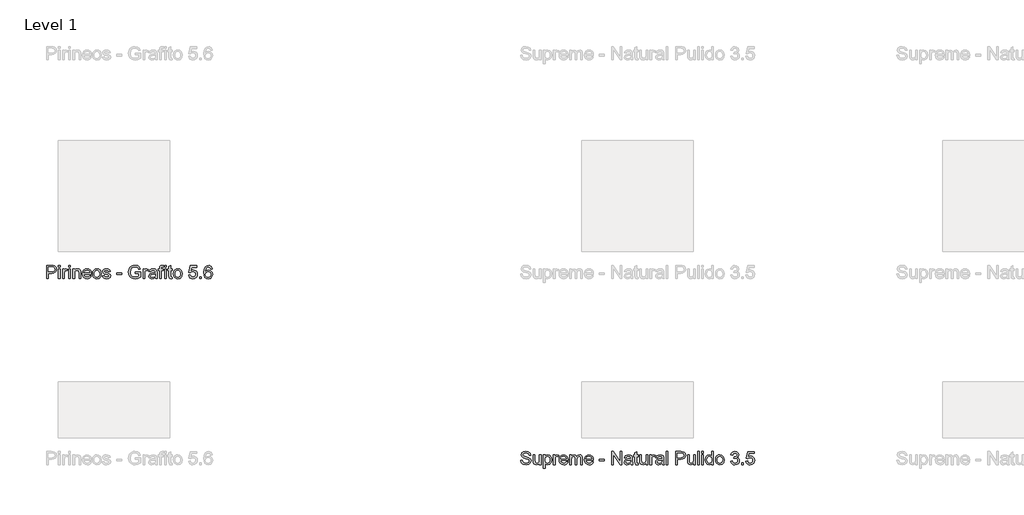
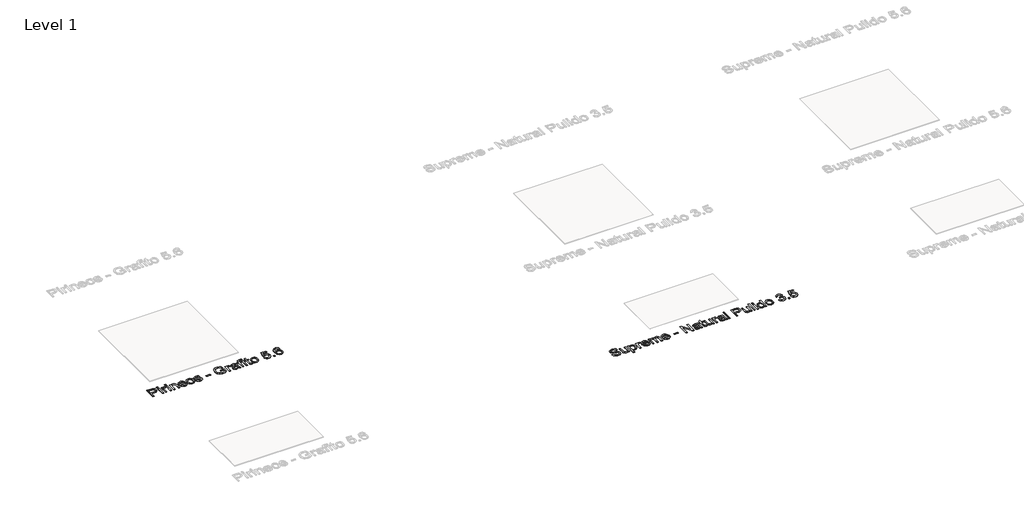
# One storey, part 35 of 80: 2 proxies.
"""IFC4 building model written with IfcOpenShell, lengths in millimetres."""

from ifc_helpers import new_model, si_unit, origin, origin_with_axes, place, context, project, spatial, polyline, outline, extrude, element, save

model = new_model("IFC4")

# Units and contexts
model_context = context("Model", 3, world=origin())
ifc_project = project(units=[si_unit("LENGTHUNIT", "METRE", prefix="MILLI")], contexts=[model_context])

# Site, building, storey
site = spatial("IfcSite", under=ifc_project)
building = spatial("IfcBuilding", under=site)
storey = spatial("IfcBuildingStorey", under=building, Name="Level 1", Elevation=0.0)

# Proxies
placement = place(None, origin())
element("IfcBuildingElementProxy", 1, Name="24\" Arial", ObjectType="24\" Arial", at=placement, inside=storey, context=model_context, shape_type="SweptSolid", body=[
    extrude(outline(polyline([(229.846969, -616.5984808), (229.846969, -498.4446346), (273.6354306, -498.4446346), (291.2892767, -499.5696346), (305.6402383, -505.0936731), (314.9431229, -516.51675), (318.4623536, -532.6273269), (316.0861517, -546.5528077), (308.9575459, -558.1561731), (295.6270171, -565.9879038), (274.6450459, -568.5984808), (244.6161998, -568.5984808), (244.6161998, -616.5984808), (229.846969, -616.5984808)]), holes=[polyline([(244.6161998, -553.82925), (275.5104306, -553.82925), (288.6065844, -552.4734808), (297.2604306, -548.4061731), (302.0849498, -541.8797308), (303.6931229, -533.1465577), (299.8998536, -520.9157884), (289.9335075, -514.2234808), (275.1642767, -513.2138654), (244.6161998, -513.2138654), (244.6161998, -553.82925)])]), origin_with_axes(), (0.0, 0.0, 1.0), 2.0),
    extrude(outline(polyline([(336.9238921, -616.5984808), (336.9238921, -529.82925), (351.6931229, -529.82925), (351.6931229, -616.5984808), (336.9238921, -616.5984808)])), origin_with_axes(), (0.0, 0.0, 1.0), 2.0),
    extrude(outline(polyline([(336.9238921, -513.2138654), (336.9238921, -498.4446346), (351.6931229, -498.4446346), (351.6931229, -513.2138654), (336.9238921, -513.2138654)])), origin_with_axes(), (0.0, 0.0, 1.0), 2.0),
    extrude(outline(polyline([(373.846969, -616.5984808), (373.846969, -529.82925), (386.7700459, -529.82925), (386.7700459, -542.6657884), (395.9431229, -530.8388654), (405.1738921, -527.9830961), (420.0008152, -532.5407884), (415.0681229, -545.7811731), (404.6835075, -542.7523269), (396.3325459, -545.6657884), (391.0104306, -553.7427115), (388.6161998, -570.9927115), (388.6161998, -616.5984808), (373.846969, -616.5984808)])), origin_with_axes(), (0.0, 0.0, 1.0), 2.0),
    extrude(outline(polyline([(429.2315844, -616.5984808), (429.2315844, -529.82925), (444.0008152, -529.82925), (444.0008152, -616.5984808), (429.2315844, -616.5984808)])), origin_with_axes(), (0.0, 0.0, 1.0), 2.0),
    extrude(outline(polyline([(429.2315844, -513.2138654), (429.2315844, -498.4446346), (444.0008152, -498.4446346), (444.0008152, -513.2138654), (429.2315844, -513.2138654)])), origin_with_axes(), (0.0, 0.0, 1.0), 2.0),
    extrude(outline(polyline([(466.1546613, -616.5984808), (466.1546613, -529.82925), (480.9238921, -529.82925), (480.9238921, -541.9446346), (492.2171613, -531.4734808), (507.6354306, -527.9830961), (521.5825459, -530.7955961), (531.1017767, -538.1802115), (535.5296613, -549.0407884), (536.3085075, -563.3196346), (536.3085075, -616.5984808), (521.5392767, -616.5984808), (521.5392767, -565.3100192), (519.8373536, -552.2427115), (513.8229306, -545.3340577), (503.6835075, -542.7523269), (487.659469, -548.5504038), (482.6077863, -556.9518461), (480.9238921, -570.5600192), (480.9238921, -616.5984808), (466.1546613, -616.5984808)])), origin_with_axes(), (0.0, 0.0, 1.0), 2.0),
    extrude(outline(polyline([(617.3661998, -590.7523269), (631.846969, -592.5984808), (626.6294209, -603.5095384), (618.3036998, -611.6657884), (607.0573056, -616.7499231), (593.0777383, -618.4446346), (575.7484113, -615.5203558), (562.4142767, -606.7475192), (553.9118729, -592.6958365), (551.0777383, -573.9350192), (553.940719, -554.5431923), (562.5296613, -540.0407884), (575.6835075, -530.9975192), (592.2411998, -527.9830961), (608.2832671, -530.9903077), (621.1017767, -540.0119423), (629.5068248, -554.4855), (632.3085075, -573.8484808), (632.221969, -577.82925), (565.846969, -577.82925), (568.4034594, -588.8845384), (574.3421613, -597.0119423), (582.9130748, -602.0095384), (593.3661998, -603.6754038), (607.846969, -600.5888654), (617.3661998, -590.7523269)]), holes=[polyline([(565.846969, -563.0600192), (617.5392767, -563.0600192), (611.6258152, -549.6754038), (603.0152383, -544.4830961), (592.1835075, -542.7523269), (573.9960075, -548.2763654), (568.2736517, -554.7342981), (565.846969, -563.0600192)])]), origin_with_axes(), (0.0, 0.0, 1.0), 2.0),
    extrude(outline(polyline([(643.3854306, -573.2138654), (646.5801421, -552.2931923), (656.1642767, -537.5888654), (668.0056229, -530.3845384), (682.1835075, -527.9830961), (697.6991325, -530.907375), (710.0921613, -539.6802115), (718.2159594, -553.6092981), (720.9238921, -572.0023269), (716.1354306, -598.2811731), (702.1883152, -613.1513654), (682.1835075, -618.4446346), (666.4803825, -615.5311731), (654.1017767, -606.7907884), (646.0645171, -592.5696346), (643.3854306, -573.2138654)]), holes=[polyline([(658.1546613, -573.1850192), (659.8637959, -586.5516058), (664.9911998, -596.0744423), (672.7075459, -601.7751634), (682.1835075, -603.6754038), (691.6161998, -601.7643461), (699.3181229, -596.0311731), (704.4455267, -586.3821346), (706.1546613, -572.7234808), (704.4347094, -559.7463173), (699.2748536, -550.3532884), (691.5621133, -544.6525673), (682.1835075, -542.7523269), (672.7075459, -544.6453558), (664.9911998, -550.3244423), (659.8637959, -559.8256442), (658.1546613, -573.1850192)])]), origin_with_axes(), (0.0, 0.0, 1.0), 2.0),
    extrude(outline(polyline([(732.0008152, -590.7523269), (746.7700459, -588.9061731), (753.6065844, -599.8677115), (769.2700459, -603.6754038), (784.3277383, -600.1850192), (789.2315844, -591.9927115), (784.2988921, -585.3580961), (769.096969, -581.1465577), (746.8565844, -573.9205961), (737.1498536, -565.4830961), (733.846969, -553.5696346), (736.5008152, -542.5648269), (743.7411998, -534.1561731), (753.1306229, -529.7859808), (765.8373536, -527.9830961), (783.8085075, -530.8821346), (795.2315844, -538.7282884), (800.3085075, -551.9830961), (785.5392767, -553.82925), (779.9863921, -545.6802115), (766.9911998, -542.7523269), (752.8565844, -545.5504038), (748.6161998, -552.0696346), (750.3758152, -556.3677115), (755.8854306, -559.6273269), (768.6065844, -562.7715577), (790.284469, -569.7234808), (800.3517767, -577.5984808), (804.0008152, -590.4350192), (799.7171613, -604.5696346), (787.3565844, -614.8244423), (769.0681229, -618.4446346), (754.1762959, -616.6994423), (743.3085075, -611.4638654), (736.0536998, -602.7955961), (732.0008152, -590.7523269)])), origin_with_axes(), (0.0, 0.0, 1.0), 2.0),
    extrude(outline(polyline([(859.3854306, -581.5215577), (859.3854306, -566.7523269), (905.5392767, -566.7523269), (905.5392767, -581.5215577), (859.3854306, -581.5215577)])), origin_with_axes(), (0.0, 0.0, 1.0), 2.0),
    extrude(outline(polyline([(1025.5392767, -570.4446346), (1025.5392767, -555.6754038), (1073.5392767, -555.6754038), (1073.5392767, -599.8388654), (1049.8421613, -613.7715577), (1024.7892767, -618.4446346), (1008.2207671, -616.5876634), (993.2460075, -611.01675), (980.8061036, -601.9266058), (971.8421613, -589.5119423), (966.4226902, -574.6201154), (964.6161998, -558.0984808), (966.4154786, -541.4578558), (971.8133152, -525.9782884), (980.5861517, -512.9939134), (992.5104306, -503.8388654), (1007.034469, -498.4085769), (1023.6065844, -496.5984808), (1046.7123536, -500.7955961), (1062.909469, -512.4782884), (1071.8373536, -532.0215577), (1058.221969, -535.8580961), (1051.4863921, -522.1994423), (1039.9767767, -514.3244423), (1023.3758152, -511.3677115), (1004.4671613, -514.5552115), (991.6017767, -522.9205961), (984.0008152, -534.3004038), (979.3854306, -557.4927115), (980.7736517, -571.6165096), (984.9383152, -583.2379038), (991.753219, -592.2739615), (1001.0921613, -598.64175), (1023.6065844, -603.6754038), (1043.8133152, -599.8821346), (1058.7700459, -591.7907884), (1058.7700459, -570.4446346), (1025.5392767, -570.4446346)])), origin_with_axes(), (0.0, 0.0, 1.0), 2.0),
    extrude(outline(polyline([(1095.6931229, -616.5984808), (1095.6931229, -529.82925), (1108.6161998, -529.82925), (1108.6161998, -542.6657884), (1117.7892767, -530.8388654), (1127.0200459, -527.9830961), (1141.846969, -532.5407884), (1136.9142767, -545.7811731), (1126.5296613, -542.7523269), (1118.1786998, -545.6657884), (1112.8565844, -553.7427115), (1110.4623536, -570.9927115), (1110.4623536, -616.5984808), (1095.6931229, -616.5984808)])), origin_with_axes(), (0.0, 0.0, 1.0), 2.0),
    extrude(outline(polyline([(1206.4623536, -605.5215577), (1192.1402383, -615.5311731), (1176.3181229, -618.4446346), (1163.9755748, -616.6922308), (1154.8710075, -611.4350192), (1149.2568248, -603.4518461), (1147.3854306, -593.5215577), (1150.2123536, -581.8388654), (1157.6402383, -573.3580961), (1167.9815844, -568.5119423), (1180.7604306, -566.2907884), (1206.3758152, -561.2138654), (1206.4623536, -557.9254038), (1202.3950459, -547.0215577), (1186.0681229, -542.7523269), (1171.1258152, -545.5936731), (1164.0008152, -555.6754038), (1149.2315844, -553.82925), (1155.6210075, -539.4061731), (1168.4863921, -530.95425), (1187.971969, -527.9830961), (1205.8710075, -530.6080961), (1215.9815844, -537.1994423), (1220.5104306, -547.2234808), (1221.2315844, -560.1465577), (1221.2315844, -578.5215577), (1221.9815844, -604.1802115), (1224.9238921, -616.5984808), (1210.1546613, -616.5984808), (1206.4623536, -605.5215577)]), holes=[polyline([(1206.4623536, -575.9830961), (1182.6354306, -580.5119423), (1169.9286998, -582.9061731), (1164.1738921, -586.8004038), (1162.1546613, -592.4830961), (1166.5536998, -600.4734808), (1179.4623536, -603.6754038), (1194.4046613, -600.14175), (1204.0392767, -591.5888654), (1206.3758152, -580.1657884), (1206.4623536, -575.9830961)])]), origin_with_axes(), (0.0, 0.0, 1.0), 2.0),
    extrude(outline(polyline([(1245.2315844, -616.5984808), (1245.2315844, -544.5984808), (1232.3085075, -544.5984808), (1232.3085075, -529.82925), (1245.2315844, -529.82925), (1245.2315844, -521.0888654), (1246.7892767, -508.7715577), (1254.346969, -499.9734808), (1269.2315844, -496.5984808), (1282.7027383, -498.2138654), (1280.5392767, -512.0600192), (1272.0296613, -511.3677115), (1262.7267767, -513.8196346), (1260.0008152, -522.9638654), (1260.0008152, -529.82925), (1276.6161998, -529.82925), (1276.6161998, -544.5984808), (1260.0008152, -544.5984808), (1260.0008152, -616.5984808), (1245.2315844, -616.5984808)])), origin_with_axes(), (0.0, 0.0, 1.0), 2.0),
    extrude(outline(polyline([(1289.5392767, -616.5984808), (1289.5392767, -529.82925), (1304.3085075, -529.82925), (1304.3085075, -616.5984808), (1289.5392767, -616.5984808)])), origin_with_axes(), (0.0, 0.0, 1.0), 2.0),
    extrude(outline(polyline([(1289.5392767, -513.2138654), (1289.5392767, -498.4446346), (1304.3085075, -498.4446346), (1304.3085075, -513.2138654), (1289.5392767, -513.2138654)])), origin_with_axes(), (0.0, 0.0, 1.0), 2.0),
    extrude(outline(polyline([(1357.846969, -604.2811731), (1359.6931229, -617.0311731), (1348.6450459, -618.4446346), (1336.2700459, -615.9927115), (1330.096969, -609.5600192), (1328.3085075, -592.8004038), (1328.3085075, -544.5984808), (1317.2315844, -544.5984808), (1317.2315844, -529.82925), (1328.3085075, -529.82925), (1328.3085075, -508.7427115), (1343.0777383, -500.0600192), (1343.0777383, -529.82925), (1357.846969, -529.82925), (1357.846969, -544.5984808), (1343.0777383, -544.5984808), (1343.0777383, -592.3677115), (1343.8565844, -599.9830961), (1346.3806229, -602.6802115), (1351.4142767, -603.6754038), (1357.846969, -604.2811731)])), origin_with_axes(), (0.0, 0.0, 1.0), 2.0),
    extrude(outline(polyline([(1368.9238921, -573.2138654), (1372.1186036, -552.2931923), (1381.7027383, -537.5888654), (1393.5440844, -530.3845384), (1407.721969, -527.9830961), (1423.237594, -530.907375), (1435.6306229, -539.6802115), (1443.7544209, -553.6092981), (1446.4623536, -572.0023269), (1441.6738921, -598.2811731), (1427.7267767, -613.1513654), (1407.721969, -618.4446346), (1392.018844, -615.5311731), (1379.6402383, -606.7907884), (1371.6029786, -592.5696346), (1368.9238921, -573.2138654)]), holes=[polyline([(1383.6931229, -573.1850192), (1385.4022575, -586.5516058), (1390.5296613, -596.0744423), (1398.2460075, -601.7751634), (1407.721969, -603.6754038), (1417.1546613, -601.7643461), (1424.8565844, -596.0311731), (1429.9839883, -586.3821346), (1431.6931229, -572.7234808), (1429.9731709, -559.7463173), (1424.8133152, -550.3532884), (1417.1005748, -544.6525673), (1407.721969, -542.7523269), (1398.2460075, -544.6453558), (1390.5296613, -550.3244423), (1385.4022575, -559.8256442), (1383.6931229, -573.1850192)])]), origin_with_axes(), (0.0, 0.0, 1.0), 2.0),
    extrude(outline(polyline([(1505.5392767, -585.2138654), (1520.3085075, -583.3677115), (1527.7508152, -598.5840577), (1543.1835075, -603.6754038), (1553.7700459, -601.9049711), (1561.7027383, -596.5936731), (1566.6570652, -588.3544904), (1568.3085075, -577.8004038), (1566.7616325, -567.8629038), (1562.1210075, -560.2619423), (1554.3505748, -555.4374231), (1543.4142767, -553.82925), (1530.4479306, -556.3965577), (1522.1546613, -563.0600192), (1507.3854306, -561.2138654), (1520.3085075, -500.2907884), (1577.5392767, -500.2907884), (1577.5392767, -515.0600192), (1532.2508152, -515.0600192), (1525.9335075, -547.5984808), (1536.4839883, -541.1946346), (1547.5392767, -539.0600192), (1561.3385556, -541.7066538), (1572.7940844, -549.6465577), (1580.5068248, -561.7475192), (1583.0777383, -576.8773269), (1580.7628344, -591.6465577), (1573.8181229, -604.2811731), (1560.5200459, -614.9037692), (1543.1258152, -618.4446346), (1528.6198056, -616.1693942), (1517.0633152, -609.3436731), (1509.1414402, -598.7607404), (1505.5392767, -585.2138654)])), origin_with_axes(), (0.0, 0.0, 1.0), 2.0),
    extrude(outline(polyline([(1603.3854306, -616.5984808), (1603.3854306, -601.82925), (1618.1546613, -601.82925), (1618.1546613, -616.5984808), (1603.3854306, -616.5984808)])), origin_with_axes(), (0.0, 0.0, 1.0), 2.0),
    extrude(outline(polyline([(1717.846969, -529.82925), (1703.0777383, -531.6754038), (1697.4815844, -519.3580961), (1690.7820652, -514.7499231), (1682.6835075, -513.2138654), (1669.3565844, -516.7907884), (1659.2748536, -530.2186731), (1655.0777383, -556.5407884), (1668.1017767, -544.7571346), (1684.2411998, -540.9061731), (1697.8854306, -543.5383846), (1709.3373536, -551.4350192), (1717.1041806, -563.4999231), (1719.6931229, -578.6369423), (1714.8181229, -599.01675), (1701.4046613, -613.4398269), (1682.0488921, -618.4446346), (1665.2928825, -615.1273269), (1651.9479306, -605.1754038), (1643.2183633, -587.6080961), (1640.3085075, -561.4446346), (1643.5392767, -532.0287692), (1653.2315844, -511.9157884), (1666.4647575, -501.8124231), (1683.6065844, -498.4446346), (1696.565719, -500.5287692), (1706.9431229, -506.7811731), (1714.2123536, -516.7114615), (1717.846969, -529.82925)]), holes=[polyline([(1655.0777383, -578.4061731), (1658.4960075, -591.1994423), (1667.5825459, -600.4879038), (1680.8950459, -603.6754038), (1690.6414402, -602.0239615), (1698.3036998, -597.0696346), (1703.268844, -589.2811731), (1704.9238921, -579.1273269), (1703.2904786, -569.3809327), (1698.3902383, -561.9494423), (1690.5981709, -557.2439134), (1680.2892767, -555.6754038), (1670.5573056, -557.2439134), (1662.4190844, -561.9494423), (1656.9130748, -569.2006442), (1655.0777383, -578.4061731)])]), origin_with_axes(), (0.0, 0.0, 1.0), 2.0),
])
element("IfcBuildingElementProxy", 2, Name="24\" Arial", ObjectType="24\" Arial", at=placement, inside=storey, context=model_context, shape_type="SweptSolid", body=[
    extrude(outline(polyline([(4485.846969, -2247.1898581), (4500.6161998, -2247.1898581), (4505.3758152, -2261.973512), (4517.0008152, -2271.3196658), (4534.7123536, -2274.8821658), (4550.1450459, -2272.1850504), (4560.1113921, -2264.7715889), (4563.3854306, -2254.862935), (4560.9335075, -2245.6465889), (4550.8950459, -2238.9398581), (4529.3902383, -2233.300435), (4506.2411998, -2226.0167812), (4493.6786998, -2215.0263966), (4489.5392767, -2200.3437043), (4494.659469, -2183.6273581), (4509.6161998, -2171.8292812), (4531.5104306, -2167.8052427), (4554.8758152, -2172.0167812), (4570.4527383, -2184.3917812), (4576.3085075, -2202.8821658), (4561.5392767, -2202.8821658), (4558.8277383, -2194.0696658), (4553.1738921, -2187.7090889), (4544.3397575, -2183.8581273), (4532.0873536, -2182.5744735), (4519.5464883, -2183.8437043), (4510.9431229, -2187.6513966), (4505.9671613, -2193.254762), (4504.3085075, -2199.911012), (4509.0104306, -2210.1513966), (4533.1258152, -2218.4013966), (4559.2604306, -2225.8148581), (4573.5536998, -2237.786012), (4578.1546613, -2254.487935), (4572.8613921, -2272.1562043), (4557.6306229, -2285.050435), (4535.2892767, -2289.6513966), (4508.909469, -2284.6898581), (4499.4226902, -2278.473512), (4492.221969, -2269.7475504), (4485.846969, -2247.1898581)])), origin_with_axes(), (0.0, 0.0, 1.0), 2.0),
    extrude(outline(polyline([(4653.846969, -2287.8052427), (4653.846969, -2272.8917812), (4642.2796613, -2285.4614927), (4627.1931229, -2289.6513966), (4613.3036998, -2286.7090889), (4603.7267767, -2279.3244735), (4599.3277383, -2268.4494735), (4598.4623536, -2254.7187043), (4598.4623536, -2201.036012), (4613.2315844, -2201.036012), (4613.2315844, -2247.7667812), (4614.1258152, -2262.8244735), (4619.9671613, -2271.6658197), (4630.971969, -2274.8821658), (4643.3036998, -2271.5937043), (4651.4527383, -2262.6369735), (4653.846969, -2246.1802427), (4653.846969, -2201.036012), (4668.6161998, -2201.036012), (4668.6161998, -2287.8052427), (4653.846969, -2287.8052427)])), origin_with_axes(), (0.0, 0.0, 1.0), 2.0),
    extrude(outline(polyline([(4688.9238921, -2321.036012), (4688.9238921, -2201.036012), (4703.6931229, -2201.036012), (4703.6931229, -2215.5167812), (4713.9046613, -2203.2715889), (4727.6931229, -2199.1898581), (4746.4142767, -2204.9013966), (4758.6450459, -2220.9975504), (4762.7700459, -2243.7571658), (4758.1113921, -2267.6850504), (4752.3998536, -2277.0744735), (4744.5825459, -2283.9831273), (4725.9046613, -2289.6513966), (4713.0536998, -2285.8581273), (4703.6931229, -2276.2667812), (4703.6931229, -2321.036012), (4688.9238921, -2321.036012)]), holes=[polyline([(4703.6931229, -2245.112935), (4705.2904786, -2258.3533197), (4710.0825459, -2267.612935), (4717.1534594, -2273.0648581), (4725.5873536, -2274.8821658), (4734.1582671, -2272.9999543), (4741.409469, -2267.3533197), (4746.3529786, -2257.754762), (4748.0008152, -2244.0167812), (4746.3926421, -2230.848512), (4741.5681229, -2221.4590889), (4734.5080267, -2215.8340889), (4726.1931229, -2213.9590889), (4717.8457671, -2215.9530793), (4710.5152383, -2221.9350504), (4705.3986517, -2231.7175023), (4703.6931229, -2245.112935)])]), origin_with_axes(), (0.0, 0.0, 1.0), 2.0),
    extrude(outline(polyline([(4779.3854306, -2287.8052427), (4779.3854306, -2201.036012), (4792.3085075, -2201.036012), (4792.3085075, -2213.8725504), (4801.4815844, -2202.0456273), (4810.7123536, -2199.1898581), (4825.5392767, -2203.7475504), (4820.6065844, -2216.987935), (4810.221969, -2213.9590889), (4801.8710075, -2216.8725504), (4796.5488921, -2224.9494735), (4794.1546613, -2242.1994735), (4794.1546613, -2287.8052427), (4779.3854306, -2287.8052427)])), origin_with_axes(), (0.0, 0.0, 1.0), 2.0),
    extrude(outline(polyline([(4895.5200459, -2261.9590889), (4910.0008152, -2263.8052427), (4904.7832671, -2274.7163004), (4896.4575459, -2282.8725504), (4885.2111517, -2287.956685), (4871.2315844, -2289.6513966), (4853.9022575, -2286.7271177), (4840.5681229, -2277.9542812), (4832.065719, -2263.9025985), (4829.2315844, -2245.1417812), (4832.0945652, -2225.7499543), (4840.6835075, -2211.2475504), (4853.8373536, -2202.2042812), (4870.3950459, -2199.1898581), (4886.4371133, -2202.1970697), (4899.2556229, -2211.2187043), (4907.6606709, -2225.692262), (4910.4623536, -2245.0552427), (4910.3758152, -2249.036012), (4844.0008152, -2249.036012), (4846.5573056, -2260.0913004), (4852.4960075, -2268.2187043), (4861.0669209, -2273.2163004), (4871.5200459, -2274.8821658), (4886.0008152, -2271.7956273), (4895.5200459, -2261.9590889)]), holes=[polyline([(4844.0008152, -2234.2667812), (4895.6931229, -2234.2667812), (4889.7796613, -2220.8821658), (4881.1690844, -2215.6898581), (4870.3373536, -2213.9590889), (4852.1498536, -2219.4831273), (4846.4274979, -2225.94106), (4844.0008152, -2234.2667812)])]), origin_with_axes(), (0.0, 0.0, 1.0), 2.0),
    extrude(outline(polyline([(4925.2315844, -2287.8052427), (4925.2315844, -2201.036012), (4940.0008152, -2201.036012), (4940.0008152, -2215.3148581), (4950.1546613, -2203.6177427), (4964.6065844, -2199.1898581), (4979.4046613, -2203.7042812), (4987.5392767, -2216.3533197), (4999.0633152, -2203.4807235), (5013.6161998, -2199.1898581), (5024.7183633, -2200.9747139), (5032.9286998, -2206.3292812), (5038.0020171, -2215.3977908), (5039.6931229, -2228.3244735), (5039.6931229, -2287.8052427), (5024.9238921, -2287.8052427), (5024.9238921, -2234.6706273), (5023.5536998, -2222.3388966), (5018.5921613, -2216.2667812), (5010.1546613, -2213.9590889), (5002.1534594, -2215.4374543), (4995.6306229, -2219.8725504), (4991.2928825, -2227.567262), (4989.846969, -2238.8244735), (4989.846969, -2287.8052427), (4975.0777383, -2287.8052427), (4975.0777383, -2233.0263966), (4971.659469, -2218.7187043), (4960.4527383, -2213.9590889), (4949.5200459, -2217.1321658), (4942.2508152, -2226.4206273), (4940.0008152, -2244.0456273), (4940.0008152, -2287.8052427), (4925.2315844, -2287.8052427)])), origin_with_axes(), (0.0, 0.0, 1.0), 2.0),
    extrude(outline(polyline([(5122.596969, -2261.9590889), (5137.0777383, -2263.8052427), (5131.8601902, -2274.7163004), (5123.534469, -2282.8725504), (5112.2880748, -2287.956685), (5098.3085075, -2289.6513966), (5080.9791806, -2286.7271177), (5067.6450459, -2277.9542812), (5059.1426421, -2263.9025985), (5056.3085075, -2245.1417812), (5059.1714883, -2225.7499543), (5067.7604306, -2211.2475504), (5080.9142767, -2202.2042812), (5097.471969, -2199.1898581), (5113.5140363, -2202.1970697), (5126.3325459, -2211.2187043), (5134.737594, -2225.692262), (5137.5392767, -2245.0552427), (5137.4527383, -2249.036012), (5071.0777383, -2249.036012), (5073.6342286, -2260.0913004), (5079.5729306, -2268.2187043), (5088.143844, -2273.2163004), (5098.596969, -2274.8821658), (5113.0777383, -2271.7956273), (5122.596969, -2261.9590889)]), holes=[polyline([(5071.0777383, -2234.2667812), (5122.7700459, -2234.2667812), (5116.8565844, -2220.8821658), (5108.2460075, -2215.6898581), (5097.4142767, -2213.9590889), (5079.2267767, -2219.4831273), (5073.5044209, -2225.94106), (5071.0777383, -2234.2667812)])]), origin_with_axes(), (0.0, 0.0, 1.0), 2.0),
    extrude(outline(polyline([(5191.0777383, -2252.7283197), (5191.0777383, -2237.9590889), (5237.2315844, -2237.9590889), (5237.2315844, -2252.7283197), (5191.0777383, -2252.7283197)])), origin_with_axes(), (0.0, 0.0, 1.0), 2.0),
    extrude(outline(polyline([(5301.846969, -2287.8052427), (5301.846969, -2169.6513966), (5317.6546613, -2169.6513966), (5379.3854306, -2263.2571658), (5379.3854306, -2169.6513966), (5394.1546613, -2169.6513966), (5394.1546613, -2287.8052427), (5378.346969, -2287.8052427), (5316.6161998, -2194.1706273), (5316.6161998, -2287.8052427), (5301.846969, -2287.8052427)])), origin_with_axes(), (0.0, 0.0, 1.0), 2.0),
    extrude(outline(polyline([(5473.5392767, -2276.7283197), (5459.2171613, -2286.737935), (5443.3950459, -2289.6513966), (5431.0524979, -2287.8989927), (5421.9479306, -2282.6417812), (5416.3337479, -2274.6586081), (5414.4623536, -2264.7283197), (5417.2892767, -2253.0456273), (5424.7171613, -2244.5648581), (5435.0585075, -2239.7187043), (5447.8373536, -2237.4975504), (5473.4527383, -2232.4206273), (5473.5392767, -2229.1321658), (5469.471969, -2218.2283197), (5453.1450459, -2213.9590889), (5438.2027383, -2216.800435), (5431.0777383, -2226.8821658), (5416.3085075, -2225.036012), (5422.6979306, -2210.612935), (5435.5633152, -2202.161012), (5455.0488921, -2199.1898581), (5472.9479306, -2201.8148581), (5483.0585075, -2208.4062043), (5487.5873536, -2218.4302427), (5488.3085075, -2231.3533197), (5488.3085075, -2249.7283197), (5489.0585075, -2275.3869735), (5492.0008152, -2287.8052427), (5477.2315844, -2287.8052427), (5473.5392767, -2276.7283197)]), holes=[polyline([(5473.5392767, -2247.1898581), (5449.7123536, -2251.7187043), (5437.0056229, -2254.112935), (5431.2508152, -2258.0071658), (5429.2315844, -2263.6898581), (5433.6306229, -2271.6802427), (5446.5392767, -2274.8821658), (5461.4815844, -2271.348512), (5471.1161998, -2262.7956273), (5473.4527383, -2251.3725504), (5473.5392767, -2247.1898581)])]), origin_with_axes(), (0.0, 0.0, 1.0), 2.0),
    extrude(outline(polyline([(5540.0008152, -2275.487935), (5541.846969, -2288.237935), (5530.7988921, -2289.6513966), (5518.4238921, -2287.1994735), (5512.2508152, -2280.7667812), (5510.4623536, -2264.0071658), (5510.4623536, -2215.8052427), (5499.3854306, -2215.8052427), (5499.3854306, -2201.036012), (5510.4623536, -2201.036012), (5510.4623536, -2179.9494735), (5525.2315844, -2171.2667812), (5525.2315844, -2201.036012), (5540.0008152, -2201.036012), (5540.0008152, -2215.8052427), (5525.2315844, -2215.8052427), (5525.2315844, -2263.5744735), (5526.0104306, -2271.1898581), (5528.534469, -2273.8869735), (5533.5681229, -2274.8821658), (5540.0008152, -2275.487935)])), origin_with_axes(), (0.0, 0.0, 1.0), 2.0),
    extrude(outline(polyline([(5610.1546613, -2287.8052427), (5610.1546613, -2272.8917812), (5598.5873536, -2285.4614927), (5583.5008152, -2289.6513966), (5569.6113921, -2286.7090889), (5560.034469, -2279.3244735), (5555.6354306, -2268.4494735), (5554.7700459, -2254.7187043), (5554.7700459, -2201.036012), (5569.5392767, -2201.036012), (5569.5392767, -2247.7667812), (5570.4335075, -2262.8244735), (5576.2748536, -2271.6658197), (5587.2796613, -2274.8821658), (5599.6113921, -2271.5937043), (5607.7604306, -2262.6369735), (5610.1546613, -2246.1802427), (5610.1546613, -2201.036012), (5624.9238921, -2201.036012), (5624.9238921, -2287.8052427), (5610.1546613, -2287.8052427)])), origin_with_axes(), (0.0, 0.0, 1.0), 2.0),
    extrude(outline(polyline([(5645.2315844, -2287.8052427), (5645.2315844, -2201.036012), (5658.1546613, -2201.036012), (5658.1546613, -2213.8725504), (5667.3277383, -2202.0456273), (5676.5585075, -2199.1898581), (5691.3854306, -2203.7475504), (5686.4527383, -2216.987935), (5676.0681229, -2213.9590889), (5667.7171613, -2216.8725504), (5662.3950459, -2224.9494735), (5660.0008152, -2242.1994735), (5660.0008152, -2287.8052427), (5645.2315844, -2287.8052427)])), origin_with_axes(), (0.0, 0.0, 1.0), 2.0),
    extrude(outline(polyline([(5756.0008152, -2276.7283197), (5741.6786998, -2286.737935), (5725.8565844, -2289.6513966), (5713.5140363, -2287.8989927), (5704.409469, -2282.6417812), (5698.7952863, -2274.6586081), (5696.9238921, -2264.7283197), (5699.7508152, -2253.0456273), (5707.1786998, -2244.5648581), (5717.5200459, -2239.7187043), (5730.2988921, -2237.4975504), (5755.9142767, -2232.4206273), (5756.0008152, -2229.1321658), (5751.9335075, -2218.2283197), (5735.6065844, -2213.9590889), (5720.6642767, -2216.800435), (5713.5392767, -2226.8821658), (5698.7700459, -2225.036012), (5705.159469, -2210.612935), (5718.0248536, -2202.161012), (5737.5104306, -2199.1898581), (5755.409469, -2201.8148581), (5765.5200459, -2208.4062043), (5770.0488921, -2218.4302427), (5770.7700459, -2231.3533197), (5770.7700459, -2249.7283197), (5771.5200459, -2275.3869735), (5774.4623536, -2287.8052427), (5759.6931229, -2287.8052427), (5756.0008152, -2276.7283197)]), holes=[polyline([(5756.0008152, -2247.1898581), (5732.1738921, -2251.7187043), (5719.4671613, -2254.112935), (5713.7123536, -2258.0071658), (5711.6931229, -2263.6898581), (5716.0921613, -2271.6802427), (5729.0008152, -2274.8821658), (5743.9431229, -2271.348512), (5753.5777383, -2262.7956273), (5755.9142767, -2251.3725504), (5756.0008152, -2247.1898581)])]), origin_with_axes(), (0.0, 0.0, 1.0), 2.0),
    extrude(outline(polyline([(5791.0777383, -2287.8052427), (5791.0777383, -2169.6513966), (5805.846969, -2169.6513966), (5805.846969, -2287.8052427), (5791.0777383, -2287.8052427)])), origin_with_axes(), (0.0, 0.0, 1.0), 2.0),
    extrude(outline(polyline([(5876.0008152, -2287.8052427), (5876.0008152, -2169.6513966), (5919.7892767, -2169.6513966), (5937.4431229, -2170.7763966), (5951.7940844, -2176.300435), (5961.096969, -2187.723512), (5964.6161998, -2203.8340889), (5962.2399979, -2217.7595697), (5955.1113921, -2229.362935), (5941.7808633, -2237.1946658), (5920.7988921, -2239.8052427), (5890.7700459, -2239.8052427), (5890.7700459, -2287.8052427), (5876.0008152, -2287.8052427)]), holes=[polyline([(5890.7700459, -2225.036012), (5921.6642767, -2225.036012), (5934.7604306, -2223.6802427), (5943.4142767, -2219.612935), (5948.2387959, -2213.0864927), (5949.846969, -2204.3533197), (5946.0536998, -2192.1225504), (5936.0873536, -2185.4302427), (5921.3181229, -2184.4206273), (5890.7700459, -2184.4206273), (5890.7700459, -2225.036012)])]), origin_with_axes(), (0.0, 0.0, 1.0), 2.0),
    extrude(outline(polyline([(6038.4623536, -2287.8052427), (6038.4623536, -2272.8917812), (6026.8950459, -2285.4614927), (6011.8085075, -2289.6513966), (5997.9190844, -2286.7090889), (5988.3421613, -2279.3244735), (5983.9431229, -2268.4494735), (5983.0777383, -2254.7187043), (5983.0777383, -2201.036012), (5997.846969, -2201.036012), (5997.846969, -2247.7667812), (5998.7411998, -2262.8244735), (6004.5825459, -2271.6658197), (6015.5873536, -2274.8821658), (6027.9190844, -2271.5937043), (6036.0681229, -2262.6369735), (6038.4623536, -2246.1802427), (6038.4623536, -2201.036012), (6053.2315844, -2201.036012), (6053.2315844, -2287.8052427), (6038.4623536, -2287.8052427)])), origin_with_axes(), (0.0, 0.0, 1.0), 2.0),
    extrude(outline(polyline([(6073.5392767, -2287.8052427), (6073.5392767, -2169.6513966), (6088.3085075, -2169.6513966), (6088.3085075, -2287.8052427), (6073.5392767, -2287.8052427)])), origin_with_axes(), (0.0, 0.0, 1.0), 2.0),
    extrude(outline(polyline([(6110.4623536, -2184.4206273), (6110.4623536, -2169.6513966), (6125.2315844, -2169.6513966), (6125.2315844, -2184.4206273), (6110.4623536, -2184.4206273)])), origin_with_axes(), (0.0, 0.0, 1.0), 2.0),
    extrude(outline(polyline([(6110.4623536, -2287.8052427), (6110.4623536, -2201.036012), (6125.2315844, -2201.036012), (6125.2315844, -2287.8052427), (6110.4623536, -2287.8052427)])), origin_with_axes(), (0.0, 0.0, 1.0), 2.0),
    extrude(outline(polyline([(6200.9238921, -2287.8052427), (6200.9238921, -2273.8725504), (6191.1522575, -2285.706685), (6177.6450459, -2289.6513966), (6159.3565844, -2283.9398581), (6146.4335075, -2268.0023581), (6141.846969, -2244.5071658), (6146.0729306, -2220.9975504), (6151.3517767, -2211.6730312), (6158.7363921, -2204.8148581), (6177.5873536, -2199.1898581), (6191.2027383, -2203.2138966), (6200.9238921, -2213.6706273), (6200.9238921, -2169.6513966), (6215.6931229, -2169.6513966), (6215.6931229, -2287.8052427), (6200.9238921, -2287.8052427)]), holes=[polyline([(6156.6161998, -2244.4494735), (6158.2820652, -2257.8088485), (6163.2796613, -2267.3100504), (6170.5416806, -2272.989137), (6179.0008152, -2274.8821658), (6187.456344, -2273.0756754), (6194.534469, -2267.6562043), (6199.3265363, -2258.5227908), (6200.9238921, -2245.5744735), (6199.2976902, -2231.4182235), (6194.4190844, -2221.6033197), (6187.1606709, -2215.8701466), (6178.3950459, -2213.9590889), (6169.8493729, -2215.7944254), (6162.846969, -2221.300435), (6158.1738921, -2230.7583677), (6156.6161998, -2244.4494735)])]), origin_with_axes(), (0.0, 0.0, 1.0), 2.0),
    extrude(outline(polyline([(6234.1546613, -2244.4206273), (6237.3493729, -2223.4999543), (6246.9335075, -2208.7956273), (6258.7748536, -2201.5913004), (6272.9527383, -2199.1898581), (6288.4683633, -2202.114137), (6300.8613921, -2210.8869735), (6308.9851902, -2224.81606), (6311.6931229, -2243.2090889), (6306.9046613, -2269.487935), (6292.9575459, -2284.3581273), (6272.9527383, -2289.6513966), (6257.2496133, -2286.737935), (6244.8710075, -2277.9975504), (6236.8337479, -2263.7763966), (6234.1546613, -2244.4206273)]), holes=[polyline([(6248.9238921, -2244.3917812), (6250.6330267, -2257.7583677), (6255.7604306, -2267.2812043), (6263.4767767, -2272.9819254), (6272.9527383, -2274.8821658), (6282.3854306, -2272.9711081), (6290.0873536, -2267.237935), (6295.2147575, -2257.5888966), (6296.9238921, -2243.9302427), (6295.2039402, -2230.9530793), (6290.0440844, -2221.5600504), (6282.331344, -2215.8593293), (6272.9527383, -2213.9590889), (6263.4767767, -2215.8521177), (6255.7604306, -2221.5312043), (6250.6330267, -2231.0324062), (6248.9238921, -2244.3917812)])]), origin_with_axes(), (0.0, 0.0, 1.0), 2.0),
    extrude(outline(polyline([(6370.7700459, -2256.4206273), (6385.5392767, -2254.5744735), (6393.6883152, -2270.1225504), (6408.9335075, -2274.8821658), (6419.0585075, -2273.2451466), (6426.8758152, -2268.3340889), (6431.8734113, -2261.0071658), (6433.5392767, -2252.1225504), (6431.8878344, -2243.6886562), (6426.9335075, -2236.848512), (6419.4335075, -2232.31606), (6410.1450459, -2230.8052427), (6399.7892767, -2232.4206273), (6401.4335075, -2217.6513966), (6403.7988921, -2217.8244735), (6420.5585075, -2213.5840889), (6426.1402383, -2208.2042812), (6428.0008152, -2200.5456273), (6422.6065844, -2188.9927427), (6408.7027383, -2184.4206273), (6394.6258152, -2189.036012), (6387.3854306, -2202.8821658), (6372.6161998, -2201.036012), (6376.9647575, -2187.7739927), (6384.7027383, -2177.8725504), (6395.2892767, -2171.706685), (6408.1835075, -2169.6513966), (6425.9960075, -2173.7042812), (6438.4575459, -2184.7812043), (6442.7700459, -2199.6802427), (6438.6738921, -2213.2956273), (6426.5585075, -2223.0744735), (6435.8036998, -2226.8100504), (6442.6546613, -2233.1706273), (6446.8950459, -2241.8100504), (6448.3085075, -2252.3821658), (6445.4815844, -2266.7763966), (6437.0008152, -2278.8052427), (6424.2003344, -2286.9398581), (6408.4142767, -2289.6513966), (6394.1354306, -2287.3364927), (6382.5104306, -2280.3917812), (6374.4262959, -2269.769185), (6370.7700459, -2256.4206273)])), origin_with_axes(), (0.0, 0.0, 1.0), 2.0),
    extrude(outline(polyline([(6468.6161998, -2287.8052427), (6468.6161998, -2273.036012), (6483.3854306, -2273.036012), (6483.3854306, -2287.8052427), (6468.6161998, -2287.8052427)])), origin_with_axes(), (0.0, 0.0, 1.0), 2.0),
    extrude(outline(polyline([(6507.3854306, -2256.4206273), (6522.1546613, -2254.5744735), (6529.596969, -2269.7908197), (6545.0296613, -2274.8821658), (6555.6161998, -2273.1117331), (6563.5488921, -2267.800435), (6568.503219, -2259.5612523), (6570.1546613, -2249.0071658), (6568.6077863, -2239.0696658), (6563.9671613, -2231.4687043), (6556.1967286, -2226.644185), (6545.2604306, -2225.036012), (6532.2940844, -2227.6033197), (6524.0008152, -2234.2667812), (6509.2315844, -2232.4206273), (6522.1546613, -2171.4975504), (6579.3854306, -2171.4975504), (6579.3854306, -2186.2667812), (6534.096969, -2186.2667812), (6527.7796613, -2218.8052427), (6538.3301421, -2212.4013966), (6549.3854306, -2210.2667812), (6563.1847094, -2212.9134158), (6574.6402383, -2220.8533197), (6582.3529786, -2232.9542812), (6584.9238921, -2248.0840889), (6582.6089883, -2262.8533197), (6575.6642767, -2275.487935), (6562.3661998, -2286.1105312), (6544.971969, -2289.6513966), (6530.4659594, -2287.3761562), (6518.909469, -2280.550435), (6510.987594, -2269.9675023), (6507.3854306, -2256.4206273)])), origin_with_axes(), (0.0, 0.0, 1.0), 2.0),
])

save(model, "model.ifc")
